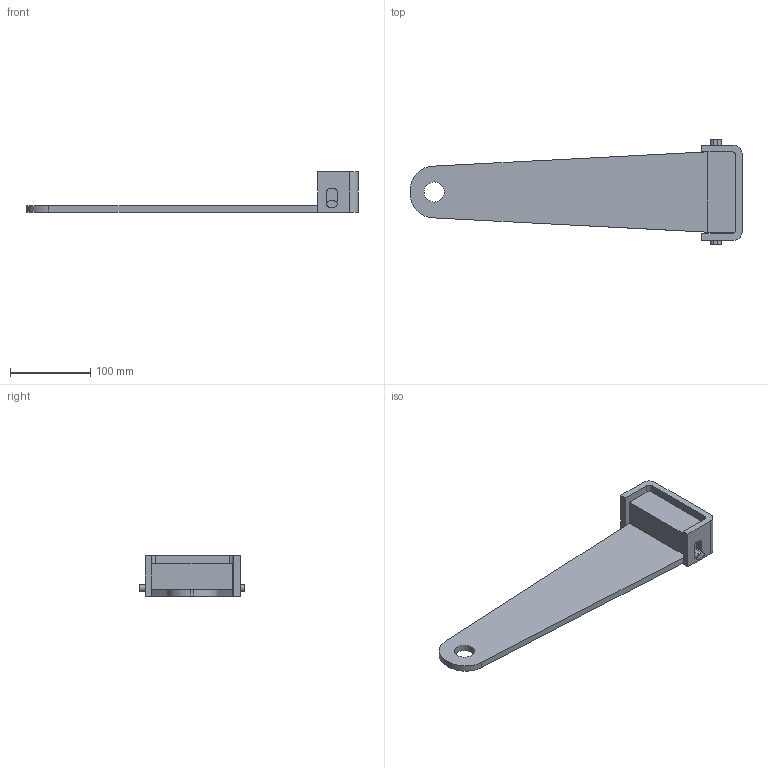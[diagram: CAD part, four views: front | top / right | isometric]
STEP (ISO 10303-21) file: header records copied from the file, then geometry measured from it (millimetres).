
FILE_DESCRIPTION (( 'STEP AP203' ), '1' );
FILE_NAME ('015.300.003.STEP', '2016-10-24T08:45:42', ( '' ), ( '' ), 'SwSTEP 2.0', 'SolidWorks 2016', '' );
FILE_SCHEMA (( 'CONFIG_CONTROL_DESIGN' ));
Length unit declared in the file: millimetre
Products named in the file (3): 015.300.003_1; 015.300.003; 015.300.003_2
Assembly tree (2 placements, depth 2):
  015.300.003
    015.300.003_2
    015.300.003_1
Bounding box: 413 x 130 x 50 mm (x, y, z)
Volume: 425177.4 mm3; surface area: 105839.1 mm2
Topology: 2 solids, 2 shells, 56 faces, 148 edges, 98 vertices
Faces by surface type: plane 36, cylinder 20
Entity records: 2053 total; most frequent: DIRECTION 310, CARTESIAN_POINT 307, ORIENTED_EDGE 296, EDGE_CURVE 148, LINE 108, VECTOR 108, AXIS2_PLACEMENT_3D 101, VERTEX_POINT 98
